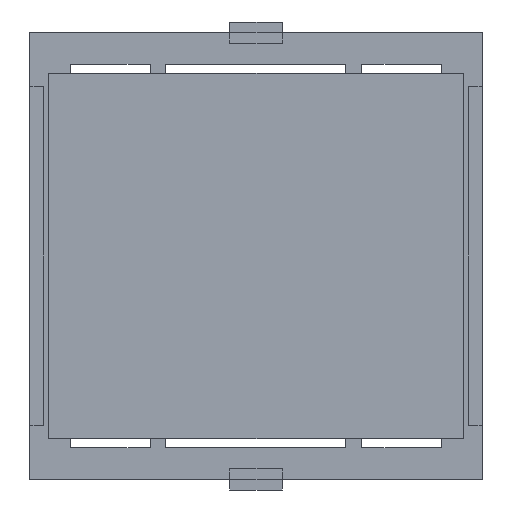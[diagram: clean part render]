
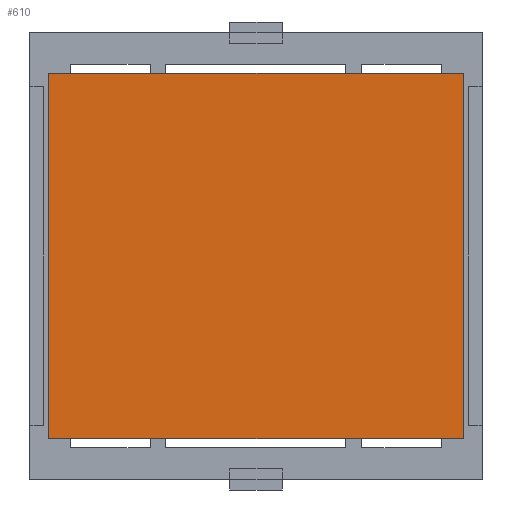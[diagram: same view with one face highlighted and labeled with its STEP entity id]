
A CAD part, front view. The second image highlights one B-rep face of the part: STEP entity #610.
In plain terms, the highlighted planar face has unit normal (0, -1, 0).
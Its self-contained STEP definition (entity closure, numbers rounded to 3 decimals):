
#610 = ADVANCED_FACE ( 'NONE', ( #6596 ), #4833, .F. ) ;
#684 = VECTOR ( 'NONE', #2334, 1000. ) ;
#700 = CARTESIAN_POINT ( 'NONE',  ( -19.558, -0.127, -17.272 ) ) ;
#1253 = EDGE_CURVE ( 'NONE', #3429, #1550, #6308, .T. ) ;
#1496 = CARTESIAN_POINT ( 'NONE',  ( -19.558, -0.127, 17.272 ) ) ;
#1550 = VERTEX_POINT ( 'NONE', #3003 ) ;
#1573 = VERTEX_POINT ( 'NONE', #1496 ) ;
#1871 = VECTOR ( 'NONE', #2832, 1000. ) ;
#2044 = EDGE_CURVE ( 'NONE', #1550, #7198, #3750, .T. ) ;
#2060 = CARTESIAN_POINT ( 'NONE',  ( -19.558, -0.127, -17.272 ) ) ;
#2334 = DIRECTION ( 'NONE',  ( 0., 0., 1. ) ) ;
#2352 = EDGE_CURVE ( 'NONE', #1573, #3429, #3426, .T. ) ;
#2555 = DIRECTION ( 'NONE',  ( 0., 1., 0. ) ) ;
#2832 = DIRECTION ( 'NONE',  ( 1., 0., 0. ) ) ;
#2876 = ORIENTED_EDGE ( 'NONE', *, *, #1253, .F. ) ;
#2889 = EDGE_LOOP ( 'NONE', ( #3140, #5194, #2876, #6523 ) ) ;
#2916 = LINE ( 'NONE', #5234, #684 ) ;
#3003 = CARTESIAN_POINT ( 'NONE',  ( 19.558, -0.127, -17.272 ) ) ;
#3026 = EDGE_CURVE ( 'NONE', #7198, #1573, #2916, .T. ) ;
#3140 = ORIENTED_EDGE ( 'NONE', *, *, #3026, .F. ) ;
#3426 = LINE ( 'NONE', #5712, #1871 ) ;
#3429 = VERTEX_POINT ( 'NONE', #7292 ) ;
#3701 = CARTESIAN_POINT ( 'NONE',  ( -19.558, -0.127, 17.272 ) ) ;
#3750 = LINE ( 'NONE', #2060, #7050 ) ;
#4833 = PLANE ( 'NONE',  #4912 ) ;
#4876 = DIRECTION ( 'NONE',  ( 0., 0., 1. ) ) ;
#4912 = AXIS2_PLACEMENT_3D ( 'NONE', #3701, #2555, #4876 ) ;
#5023 = DIRECTION ( 'NONE',  ( 0., 0., -1. ) ) ;
#5194 = ORIENTED_EDGE ( 'NONE', *, *, #2044, .F. ) ;
#5234 = CARTESIAN_POINT ( 'NONE',  ( -19.558, -0.127, -17.272 ) ) ;
#5631 = CARTESIAN_POINT ( 'NONE',  ( 19.558, -0.127, -17.272 ) ) ;
#5712 = CARTESIAN_POINT ( 'NONE',  ( -19.558, -0.127, 17.272 ) ) ;
#6093 = DIRECTION ( 'NONE',  ( -1., 0., 0. ) ) ;
#6308 = LINE ( 'NONE', #5631, #6608 ) ;
#6523 = ORIENTED_EDGE ( 'NONE', *, *, #2352, .F. ) ;
#6596 = FACE_OUTER_BOUND ( 'NONE', #2889, .T. ) ;
#6608 = VECTOR ( 'NONE', #5023, 1000. ) ;
#7050 = VECTOR ( 'NONE', #6093, 1000. ) ;
#7198 = VERTEX_POINT ( 'NONE', #700 ) ;
#7292 = CARTESIAN_POINT ( 'NONE',  ( 19.558, -0.127, 17.272 ) ) ;
